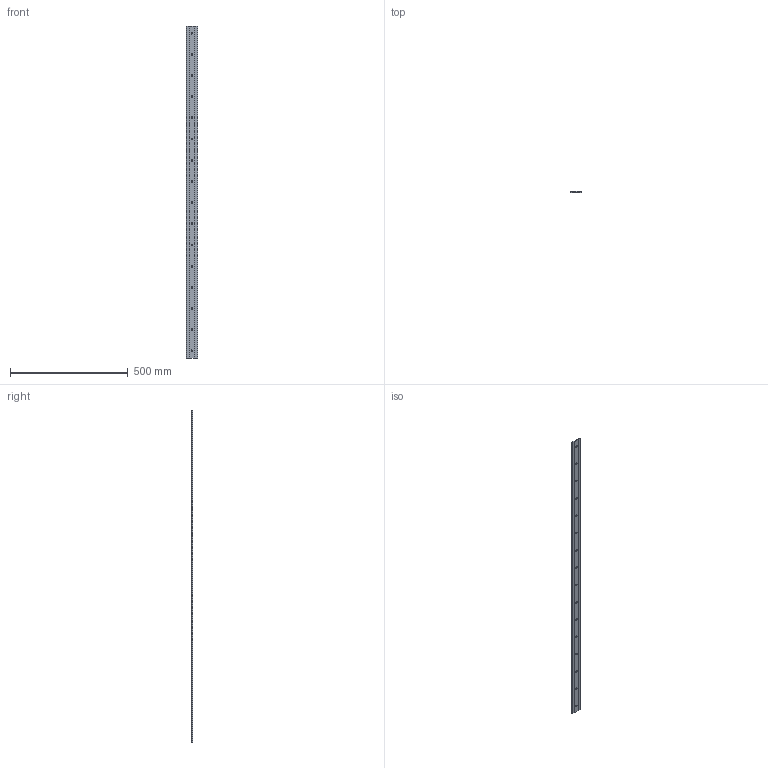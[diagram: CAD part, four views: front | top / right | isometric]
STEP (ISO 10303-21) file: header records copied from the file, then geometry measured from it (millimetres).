
FILE_DESCRIPTION(('STEP AP203'),'1');
FILE_NAME('//192.168.1.1/share/s-4 技術開発/s-4-4_CAD/s-4-4-6_見直し、確認済み/014 修正済み(済)/GF_TOP/GF-50N-1410.step','2022-03-14T00:17:02',(' '),(' '),'Spatial InterOp 3D',' ',' ');
FILE_SCHEMA(('CONFIG_CONTROL_DESIGN'));
Length unit declared in the file: millimetre
Products named in the file (1): 1
Bounding box: 49.95 x 4.93 x 1410 mm (x, y, z)
Volume: 323593.1 mm3; surface area: 149748.2 mm2
Topology: 1 solids, 1 shells, 66 faces, 176 edges, 112 vertices
Faces by surface type: cone 32, cylinder 20, plane 14
Full cylindrical faces by diameter (mm): 7 x16
Entity records: 1788 total; most frequent: DIRECTION 318, CARTESIAN_POINT 275, ORIENTED_EDGE 224, EDGE_LOOP 146, AXIS2_PLACEMENT_3D 139, EDGE_CURVE 112, VERTEX_POINT 96, FACE_OUTER_BOUND 82
